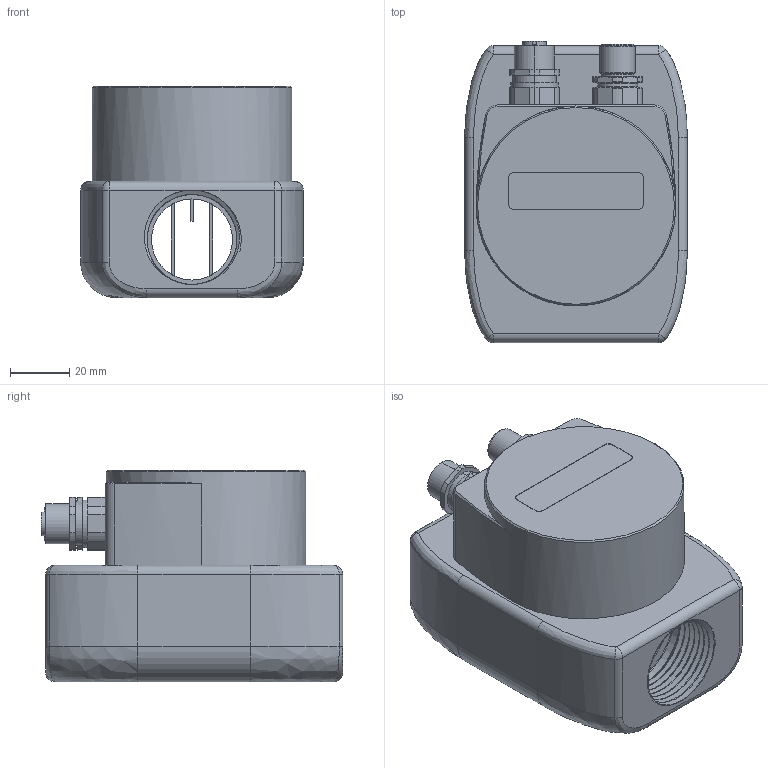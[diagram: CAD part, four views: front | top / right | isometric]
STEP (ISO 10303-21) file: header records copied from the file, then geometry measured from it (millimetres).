
FILE_DESCRIPTION(/* description */ (''),/* implementation_level */ '2;1');
FILE_NAME(/* name */ '551452_02_1-BGR_Inline_neu_1Zoll.stp',/* time_stamp */ '2018-04-13T10:41:11+02:00',/* author */ (''),/* organization */ (''),/* preprocessor_version */ 'ST-DEVELOPER v16',/* originating_system */ 'SIEMENS PLM Software NX 11.0',/* authorisation */ '');
FILE_SCHEMA (('AP203_CONFIGURATION_CONTROLLED_3D_DESIGN_OF_MECHANICAL_PARTS_AND_ASSEMBLIES_MIM_LF { 1 0 10303 403 2 1 2}'));
Length unit declared in the file: millimetre
Products named in the file (1): kien2C709FBA417j
Bounding box: 75 x 101.5 x 71.2 mm (x, y, z)
Volume: 338831.6 mm3; surface area: 47372.1 mm2
Topology: 1 solids, 1 shells, 302 faces, 747 edges, 467 vertices
Faces by surface type: plane 104, cylinder 89, bspline 36, cone 36, revolution 23, extrusion 6, torus 4, sphere 4
Full cylindrical faces by diameter (mm): 1 x1, 27.3 x1, 33.8 x2, 67.3 x1
Entity records: 13624 total; most frequent: CARTESIAN_POINT 6561, DIRECTION 1478, ORIENTED_EDGE 1450, EDGE_CURVE 725, AXIS2_PLACEMENT_3D 579, VERTEX_POINT 462, EDGE_LOOP 345, CIRCLE 333
